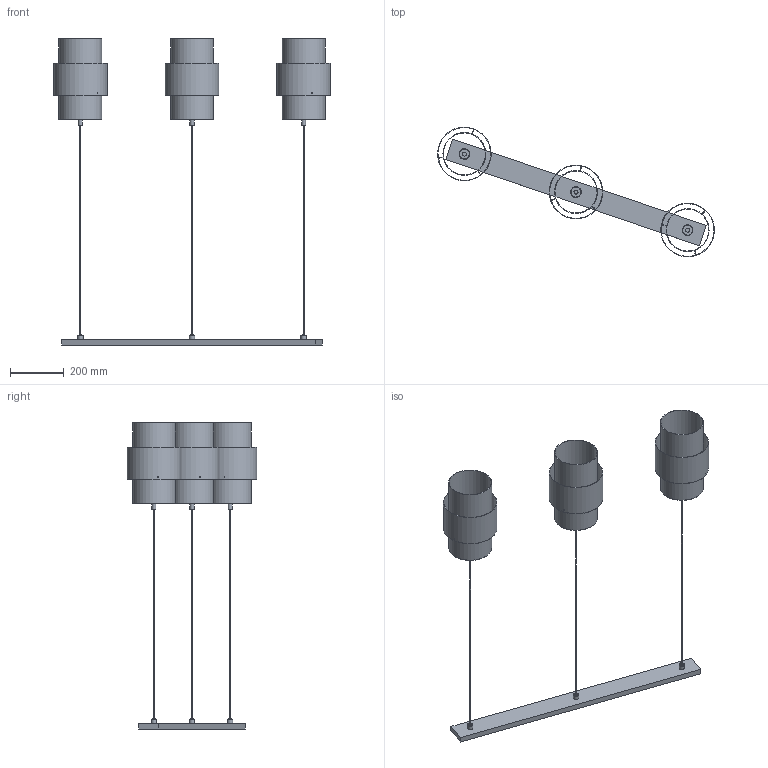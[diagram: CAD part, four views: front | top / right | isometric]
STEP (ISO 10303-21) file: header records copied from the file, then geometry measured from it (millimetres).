
FILE_DESCRIPTION(/* description */ (''),/* implementation_level */ '2;1');
FILE_NAME(/* name */ 'D:\TK Lighting\CALISTO\Calisto 4378.stp',/* time_stamp */ '2020-11-23T09:47:23+01:00',/* author */ ('Admin'),/* organization */ (''),/* preprocessor_version */ 'ST-DEVELOPER v16.5',/* originating_system */ 'Autodesk Inventor 2017',/* authorisation */ '');
FILE_SCHEMA (('AUTOMOTIVE_DESIGN { 1 0 10303 214 3 1 1 }'));
Products named in the file (4): Calisto 4378; Listwa zawiesia 4378; Zawiesie 4378; klosz 4378
Assembly tree (7 placements, depth 2):
  Calisto 4378
    Listwa zawiesia 4378
    Zawiesie 4378  x3
    klosz 4378  x3
Bounding box: 1032.78 x 483.87 x 1142 mm (x, y, z)
Volume: 2681502.2 mm3; surface area: 1626073.4 mm2
Topology: 13 solids, 13 shells, 135 faces, 264 edges, 176 vertices
Faces by surface type: plane 105, cylinder 30
Full cylindrical faces by diameter (mm): 3 x3, 10 x3, 15 x3, 20 x3, 37 x3, 40 x3, 157 x3, 160 x3, 197 x3, 200 x3
Entity records: 1495 total; most frequent: DIRECTION 248, CARTESIAN_POINT 222, ORIENTED_EDGE 186, AXIS2_PLACEMENT_3D 94, EDGE_CURVE 90, EDGE_LOOP 81, VERTEX_POINT 68, LINE 60
